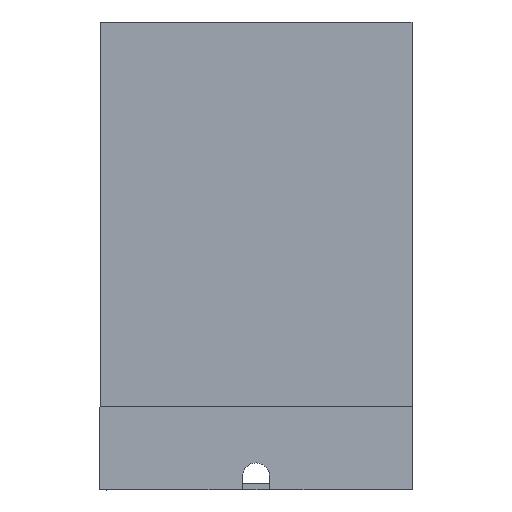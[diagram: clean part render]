
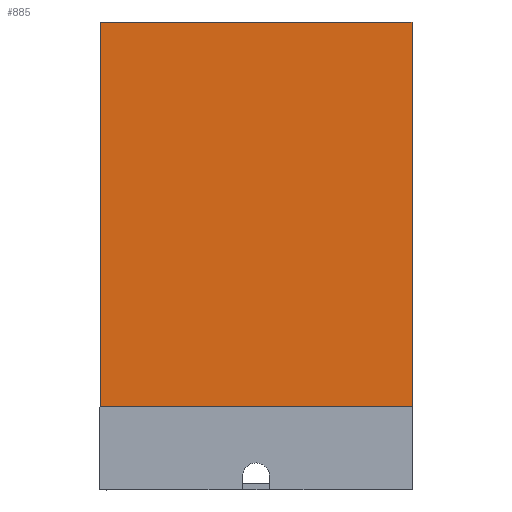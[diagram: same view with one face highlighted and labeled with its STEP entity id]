
A CAD part, front view. The second image highlights one B-rep face of the part: STEP entity #885.
In plain terms, the highlighted planar face has unit normal (0, -1, 0).
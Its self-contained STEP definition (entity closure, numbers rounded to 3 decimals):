
#9=DIRECTION('',(1.,0.,0.));
#10=VECTOR('',#9,150.);
#11=CARTESIAN_POINT('',(-74.999,-75.005,0.));
#12=LINE('',#11,#10);
#81=DIRECTION('',(0.,0.,1.));
#82=VECTOR('',#81,185.);
#83=CARTESIAN_POINT('',(75.001,-75.005,0.));
#84=LINE('',#83,#82);
#89=DIRECTION('',(0.,0.,1.));
#90=VECTOR('',#89,185.);
#91=CARTESIAN_POINT('',(-74.999,-75.005,0.));
#92=LINE('',#91,#90);
#93=DIRECTION('',(1.,0.,0.));
#94=VECTOR('',#93,150.);
#95=CARTESIAN_POINT('',(-74.999,-75.005,185.));
#96=LINE('',#95,#94);
#597=CARTESIAN_POINT('',(-74.999,-75.005,0.));
#598=VERTEX_POINT('',#597);
#599=CARTESIAN_POINT('',(75.001,-75.005,0.));
#600=VERTEX_POINT('',#599);
#653=CARTESIAN_POINT('',(75.001,-75.005,185.));
#654=VERTEX_POINT('',#653);
#655=CARTESIAN_POINT('',(-74.999,-75.005,185.));
#656=VERTEX_POINT('',#655);
#872=CARTESIAN_POINT('',(-74.999,-75.005,0.));
#873=DIRECTION('',(0.,-1.,0.));
#874=DIRECTION('',(1.,0.,0.));
#875=AXIS2_PLACEMENT_3D('',#872,#873,#874);
#876=PLANE('',#875);
#877=ORIENTED_EDGE('',*,*,#778,.F.);
#879=ORIENTED_EDGE('',*,*,#878,.T.);
#881=ORIENTED_EDGE('',*,*,#880,.T.);
#882=ORIENTED_EDGE('',*,*,#864,.F.);
#883=EDGE_LOOP('',(#877,#879,#881,#882));
#884=FACE_OUTER_BOUND('',#883,.F.);
#885=ADVANCED_FACE('',(#884),#876,.T.);
#778=EDGE_CURVE('',#598,#600,#12,.T.);
#864=EDGE_CURVE('',#600,#654,#84,.T.);
#878=EDGE_CURVE('',#598,#656,#92,.T.);
#880=EDGE_CURVE('',#656,#654,#96,.T.);
